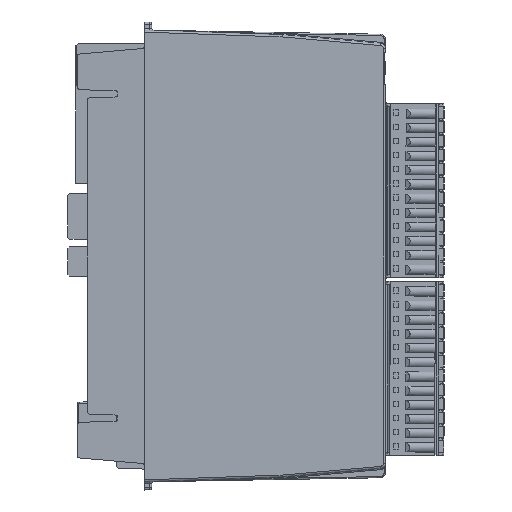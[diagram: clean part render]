
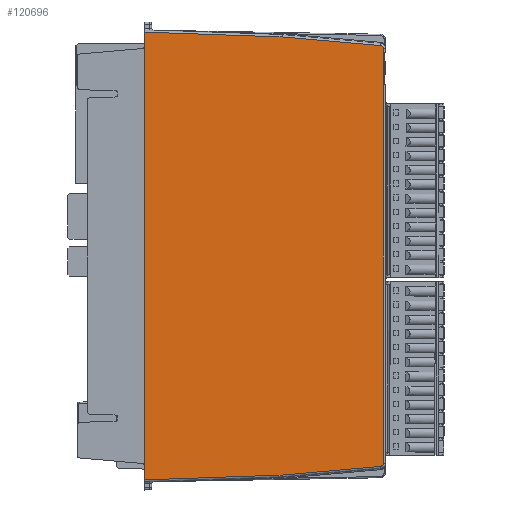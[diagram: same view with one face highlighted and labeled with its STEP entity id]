
A CAD part, left-side view. The second image highlights one B-rep face of the part: STEP entity #120696.
In plain terms, the highlighted planar face has unit normal (-1, -0.018, 0).
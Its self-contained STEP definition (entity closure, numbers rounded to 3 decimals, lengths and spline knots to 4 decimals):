
#998=ELLIPSE('',#128857,0.0315,0.0315);
#999=ELLIPSE('',#128858,0.0315,0.0315);
#5761=PLANE('',#128856);
#10805=FACE_OUTER_BOUND('',#17342,.T.);
#17342=EDGE_LOOP('',(#94477,#94478,#94479,#94480,#94481,#94482,#94483,#94484,
#94485,#94486));
#31898=LINE('',#188790,#44305);
#31899=LINE('',#188792,#44306);
#31900=LINE('',#188794,#44307);
#31901=LINE('',#188796,#44308);
#31902=LINE('',#188798,#44309);
#31903=LINE('',#188802,#44310);
#31904=LINE('',#188806,#44311);
#31905=LINE('',#188807,#44312);
#44305=VECTOR('',#150023,39.3701);
#44306=VECTOR('',#150024,39.3701);
#44307=VECTOR('',#150025,39.3701);
#44308=VECTOR('',#150026,39.3701);
#44309=VECTOR('',#150027,39.3701);
#44310=VECTOR('',#150030,39.3701);
#44311=VECTOR('',#150033,39.3701);
#44312=VECTOR('',#150034,39.3701);
#55578=VERTEX_POINT('',#188788);
#55579=VERTEX_POINT('',#188789);
#55580=VERTEX_POINT('',#188791);
#55581=VERTEX_POINT('',#188793);
#55582=VERTEX_POINT('',#188795);
#55583=VERTEX_POINT('',#188797);
#55584=VERTEX_POINT('',#188799);
#55585=VERTEX_POINT('',#188801);
#55586=VERTEX_POINT('',#188803);
#55587=VERTEX_POINT('',#188805);
#69461=EDGE_CURVE('',#55578,#55579,#31898,.T.);
#69462=EDGE_CURVE('',#55580,#55579,#31899,.T.);
#69463=EDGE_CURVE('',#55580,#55581,#31900,.T.);
#69464=EDGE_CURVE('',#55581,#55582,#31901,.T.);
#69465=EDGE_CURVE('',#55582,#55583,#31902,.T.);
#69466=EDGE_CURVE('',#55583,#55584,#998,.T.);
#69467=EDGE_CURVE('',#55584,#55585,#31903,.T.);
#69468=EDGE_CURVE('',#55585,#55586,#999,.T.);
#69469=EDGE_CURVE('',#55586,#55587,#31904,.T.);
#69470=EDGE_CURVE('',#55587,#55578,#31905,.T.);
#94477=ORIENTED_EDGE('',*,*,#69461,.T.);
#94478=ORIENTED_EDGE('',*,*,#69462,.F.);
#94479=ORIENTED_EDGE('',*,*,#69463,.T.);
#94480=ORIENTED_EDGE('',*,*,#69464,.T.);
#94481=ORIENTED_EDGE('',*,*,#69465,.T.);
#94482=ORIENTED_EDGE('',*,*,#69466,.T.);
#94483=ORIENTED_EDGE('',*,*,#69467,.T.);
#94484=ORIENTED_EDGE('',*,*,#69468,.T.);
#94485=ORIENTED_EDGE('',*,*,#69469,.T.);
#94486=ORIENTED_EDGE('',*,*,#69470,.T.);
#120696=ADVANCED_FACE('',(#10805),#5761,.T.);
#128856=AXIS2_PLACEMENT_3D('',#188787,#150021,#150022);
#128857=AXIS2_PLACEMENT_3D('',#188800,#150028,#150029);
#128858=AXIS2_PLACEMENT_3D('',#188804,#150031,#150032);
#150021=DIRECTION('center_axis',(-1.,-0.017,
0.));
#150022=DIRECTION('ref_axis',(-0.017,1.,0.));
#150023=DIRECTION('',(0.,0.,-1.));
#150024=DIRECTION('',(0.,0.,1.));
#150025=DIRECTION('',(0.,0.,-1.));
#150026=DIRECTION('',(0.017,-0.999,0.035));
#150027=DIRECTION('',(0.017,-0.996,0.087));
#150028=DIRECTION('center_axis',(-1.,-0.017,
0.));
#150029=DIRECTION('ref_axis',(0.017,-1.,0.));
#150030=DIRECTION('',(0.,0.,1.));
#150031=DIRECTION('center_axis',(-1.,-0.017,
0.));
#150032=DIRECTION('ref_axis',(0.017,-1.,0.));
#150033=DIRECTION('',(-0.017,0.996,0.087));
#150034=DIRECTION('',(-0.017,0.999,0.035));
#188787=CARTESIAN_POINT('Origin',(-0.0296,-0.489,
-2.0669));
#188788=CARTESIAN_POINT('',(-0.0227,-0.8827,0.1083));
#188789=CARTESIAN_POINT('',(-0.0227,-0.8827,-0.0312));
#188790=CARTESIAN_POINT('',(-0.0227,-0.8827,0.128));
#188791=CARTESIAN_POINT('',(-0.0227,-0.8827,-4.1027));
#188792=CARTESIAN_POINT('',(-0.0227,-0.8827,-7.5932));
#188793=CARTESIAN_POINT('',(-0.0227,-0.8827,-4.2421));
#188794=CARTESIAN_POINT('',(-0.0227,-0.8827,0.128));
#188795=CARTESIAN_POINT('',(0.0007,-2.2205,-4.1954));
#188796=CARTESIAN_POINT('',(-0.0282,-0.5654,-4.2532));
#188797=CARTESIAN_POINT('',(0.0174,-3.1772,-4.1117));
#188798=CARTESIAN_POINT('',(-0.0261,-0.6869,-4.3296));
#188799=CARTESIAN_POINT('',(0.0179,-3.2059,-4.0803));
#188800=CARTESIAN_POINT('Origin',(0.0173,-3.1744,
-4.0803));
#188801=CARTESIAN_POINT('',(0.0179,-3.2059,-0.0535));
#188802=CARTESIAN_POINT('',(0.0179,-3.2059,-0.0535));
#188803=CARTESIAN_POINT('',(0.0174,-3.1772,-0.0221));
#188804=CARTESIAN_POINT('Origin',(0.0173,-3.1744,
-0.0535));
#188805=CARTESIAN_POINT('',(0.0007,-2.2205,0.0616));
#188806=CARTESIAN_POINT('',(-0.0261,-0.6869,0.1957));
#188807=CARTESIAN_POINT('',(-0.0282,-0.5654,0.1194));
